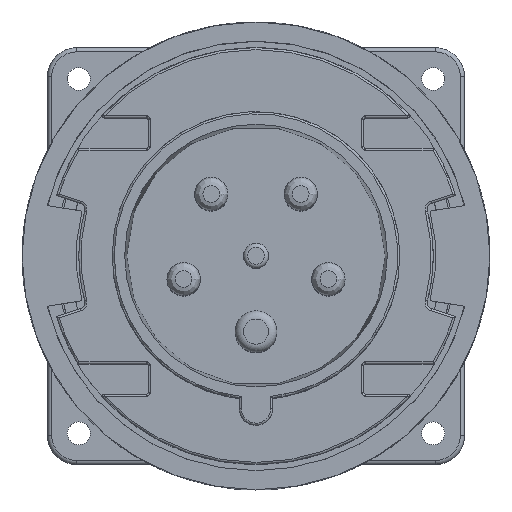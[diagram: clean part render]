
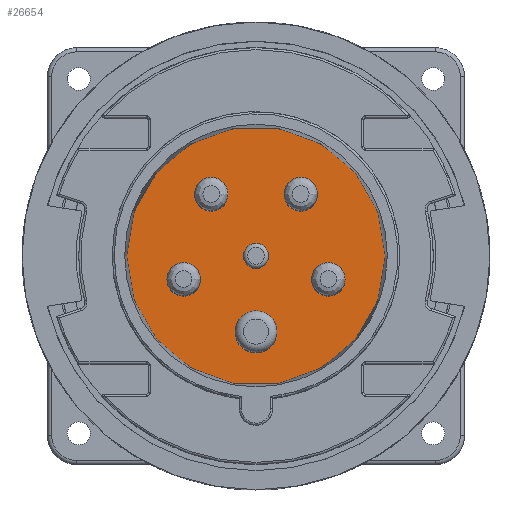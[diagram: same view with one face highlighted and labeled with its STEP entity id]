
A CAD part, top view. The second image highlights one B-rep face of the part: STEP entity #26654.
In plain terms, the highlighted planar face has unit normal (0, 0, 1).
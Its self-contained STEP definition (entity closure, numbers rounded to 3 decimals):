
#26654 = ADVANCED_FACE('',(#26655),#26693,.T.);
#26655 = FACE_BOUND('',#26656,.T.);
#26656 = EDGE_LOOP('',(#26657,#26668,#26677,#26686));
#26657 = ORIENTED_EDGE('',*,*,#26658,.F.);
#26658 = EDGE_CURVE('',#26659,#26661,#26663,.T.);
#26659 = VERTEX_POINT('',#26660);
#26660 = CARTESIAN_POINT('',(0.,31.,0.));
#26661 = VERTEX_POINT('',#26662);
#26662 = CARTESIAN_POINT('',(31.,0.,0.));
#26663 = CIRCLE('',#26664,31.);
#26664 = AXIS2_PLACEMENT_3D('',#26665,#26666,#26667);
#26665 = CARTESIAN_POINT('',(0.,0.,0.));
#26666 = DIRECTION('',(0.,0.,-1.));
#26667 = DIRECTION('',(0.,1.,0.));
#26668 = ORIENTED_EDGE('',*,*,#26669,.F.);
#26669 = EDGE_CURVE('',#26670,#26659,#26672,.T.);
#26670 = VERTEX_POINT('',#26671);
#26671 = CARTESIAN_POINT('',(-31.,0.,0.));
#26672 = CIRCLE('',#26673,31.);
#26673 = AXIS2_PLACEMENT_3D('',#26674,#26675,#26676);
#26674 = CARTESIAN_POINT('',(0.,0.,0.));
#26675 = DIRECTION('',(0.,0.,-1.));
#26676 = DIRECTION('',(-1.,0.,0.));
#26677 = ORIENTED_EDGE('',*,*,#26678,.F.);
#26678 = EDGE_CURVE('',#26679,#26670,#26681,.T.);
#26679 = VERTEX_POINT('',#26680);
#26680 = CARTESIAN_POINT('',(0.,-31.,0.));
#26681 = CIRCLE('',#26682,31.);
#26682 = AXIS2_PLACEMENT_3D('',#26683,#26684,#26685);
#26683 = CARTESIAN_POINT('',(0.,0.,0.));
#26684 = DIRECTION('',(0.,0.,-1.));
#26685 = DIRECTION('',(0.,-1.,0.));
#26686 = ORIENTED_EDGE('',*,*,#26687,.F.);
#26687 = EDGE_CURVE('',#26661,#26679,#26688,.T.);
#26688 = CIRCLE('',#26689,31.);
#26689 = AXIS2_PLACEMENT_3D('',#26690,#26691,#26692);
#26690 = CARTESIAN_POINT('',(0.,0.,0.));
#26691 = DIRECTION('',(0.,0.,-1.));
#26692 = DIRECTION('',(1.,0.,0.));
#26693 = PLANE('',#26694);
#26694 = AXIS2_PLACEMENT_3D('',#26695,#26696,#26697);
#26695 = CARTESIAN_POINT('',(0.,0.,0.));
#26696 = DIRECTION('',(0.,0.,1.));
#26697 = DIRECTION('',(-1.,0.,0.));
